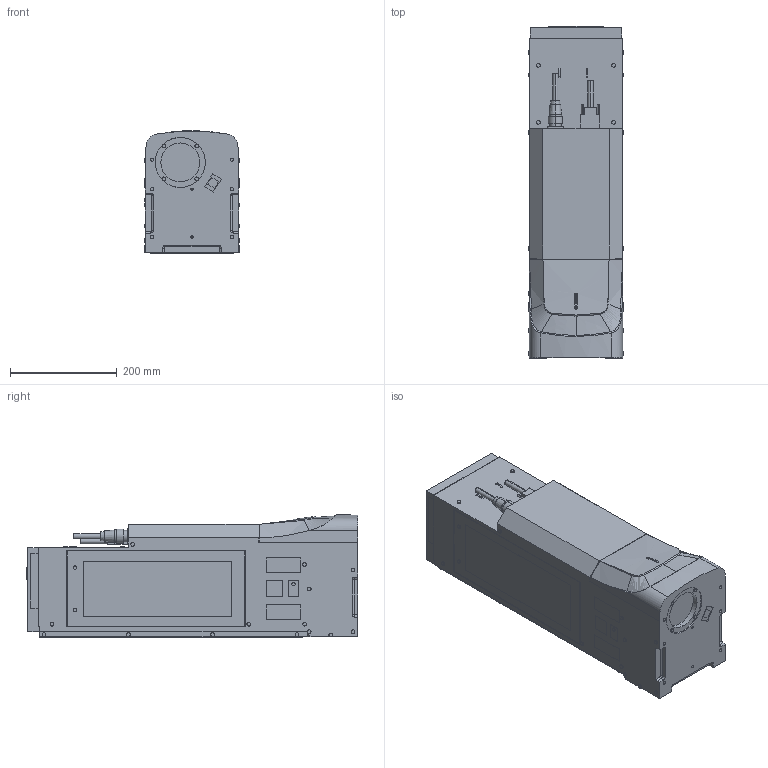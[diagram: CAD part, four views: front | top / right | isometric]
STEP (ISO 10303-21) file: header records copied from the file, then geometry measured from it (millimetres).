
FILE_DESCRIPTION (( 'STEP AP203' ), '1' );
FILE_NAME ('lp-rh300th_step.STEP', '2023-07-28T06:11:36', ( '' ), ( '' ), 'SwSTEP 2.0', 'SolidWorks 2022', '' );
FILE_SCHEMA (( 'CONFIG_CONTROL_DESIGN' ));
Length unit declared in the file: millimetre
Products named in the file (1): lp-rh300th_step
Bounding box: 178.8 x 623 x 230 mm (x, y, z)
Volume: 21395684.8 mm3; surface area: 556238 mm2
Topology: 1 solids, 5 shells, 529 faces, 1240 edges, 807 vertices
Faces by surface type: plane 288, cylinder 182, bspline 49, torus 6, cone 4
Entity records: 23260 total; most frequent: CARTESIAN_POINT 11152, ORIENTED_EDGE 2476, DIRECTION 2414, EDGE_CURVE 1238, AXIS2_PLACEMENT_3D 835, VERTEX_POINT 807, VECTOR 744, LINE 744
